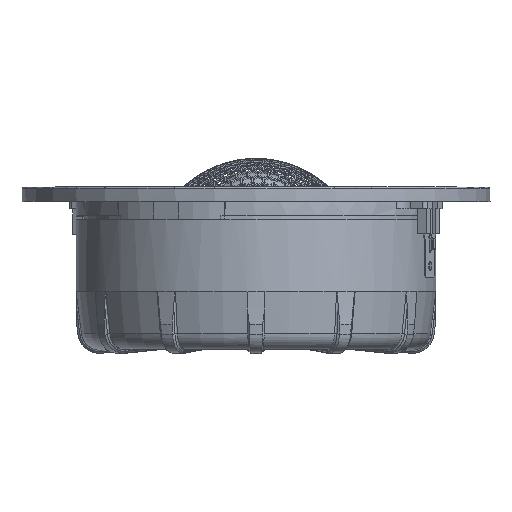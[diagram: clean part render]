
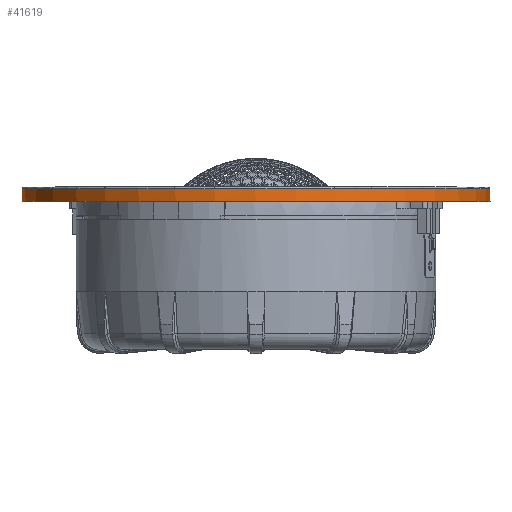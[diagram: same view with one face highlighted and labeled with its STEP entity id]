
A CAD part, top view. The second image highlights one B-rep face of the part: STEP entity #41619.
In plain terms, the highlighted cylindrical face has radius 65 mm (diameter 130 mm), a full revolution.
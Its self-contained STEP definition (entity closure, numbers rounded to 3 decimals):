
#820=CYLINDRICAL_SURFACE('',#46487,65.);
#5032=CIRCLE('',#46402,65.);
#5080=CIRCLE('',#46484,65.);
#5082=CIRCLE('',#46486,65.);
#7357=FACE_OUTER_BOUND('',#9828,.T.);
#9828=EDGE_LOOP('',(#35750,#35751,#35752,#35753,#35754));
#12326=LINE('',#100054,#14452);
#14452=VECTOR('',#57982,65.);
#18447=VERTEX_POINT('',#99665);
#18468=VERTEX_POINT('',#100048);
#18469=VERTEX_POINT('',#100049);
#24580=EDGE_CURVE('',#18447,#18447,#5032,.T.);
#24645=EDGE_CURVE('',#18468,#18469,#5080,.T.);
#24647=EDGE_CURVE('',#18469,#18468,#5082,.T.);
#24648=EDGE_CURVE('',#18447,#18468,#12326,.T.);
#35750=ORIENTED_EDGE('',*,*,#24580,.T.);
#35751=ORIENTED_EDGE('',*,*,#24648,.T.);
#35752=ORIENTED_EDGE('',*,*,#24647,.F.);
#35753=ORIENTED_EDGE('',*,*,#24645,.F.);
#35754=ORIENTED_EDGE('',*,*,#24648,.F.);
#41619=ADVANCED_FACE('',(#7357),#820,.T.);
#46402=AXIS2_PLACEMENT_3D('',#99666,#57797,#57798);
#46484=AXIS2_PLACEMENT_3D('',#100050,#57974,#57975);
#46486=AXIS2_PLACEMENT_3D('',#100052,#57978,#57979);
#46487=AXIS2_PLACEMENT_3D('',#100053,#57980,#57981);
#57797=DIRECTION('center_axis',(0.,1.,0.));
#57798=DIRECTION('ref_axis',(0.5,0.,-0.866));
#57974=DIRECTION('center_axis',(0.,1.,0.));
#57975=DIRECTION('ref_axis',(0.5,0.,-0.866));
#57978=DIRECTION('center_axis',(0.,1.,0.));
#57979=DIRECTION('ref_axis',(0.5,0.,-0.866));
#57980=DIRECTION('center_axis',(0.,-1.,0.));
#57981=DIRECTION('ref_axis',(-0.5,0.,0.866));
#57982=DIRECTION('',(0.,1.,0.));
#99665=CARTESIAN_POINT('',(32.5,0.5,-56.292));
#99666=CARTESIAN_POINT('Origin',(0.,0.5,0.));
#100048=CARTESIAN_POINT('',(32.5,4.,-56.292));
#100049=CARTESIAN_POINT('',(-32.847,4.,56.09));
#100050=CARTESIAN_POINT('Origin',(0.,4.,0.));
#100052=CARTESIAN_POINT('Origin',(0.,4.,0.));
#100053=CARTESIAN_POINT('Origin',(0.,0.5,0.));
#100054=CARTESIAN_POINT('',(32.5,0.5,-56.292));
